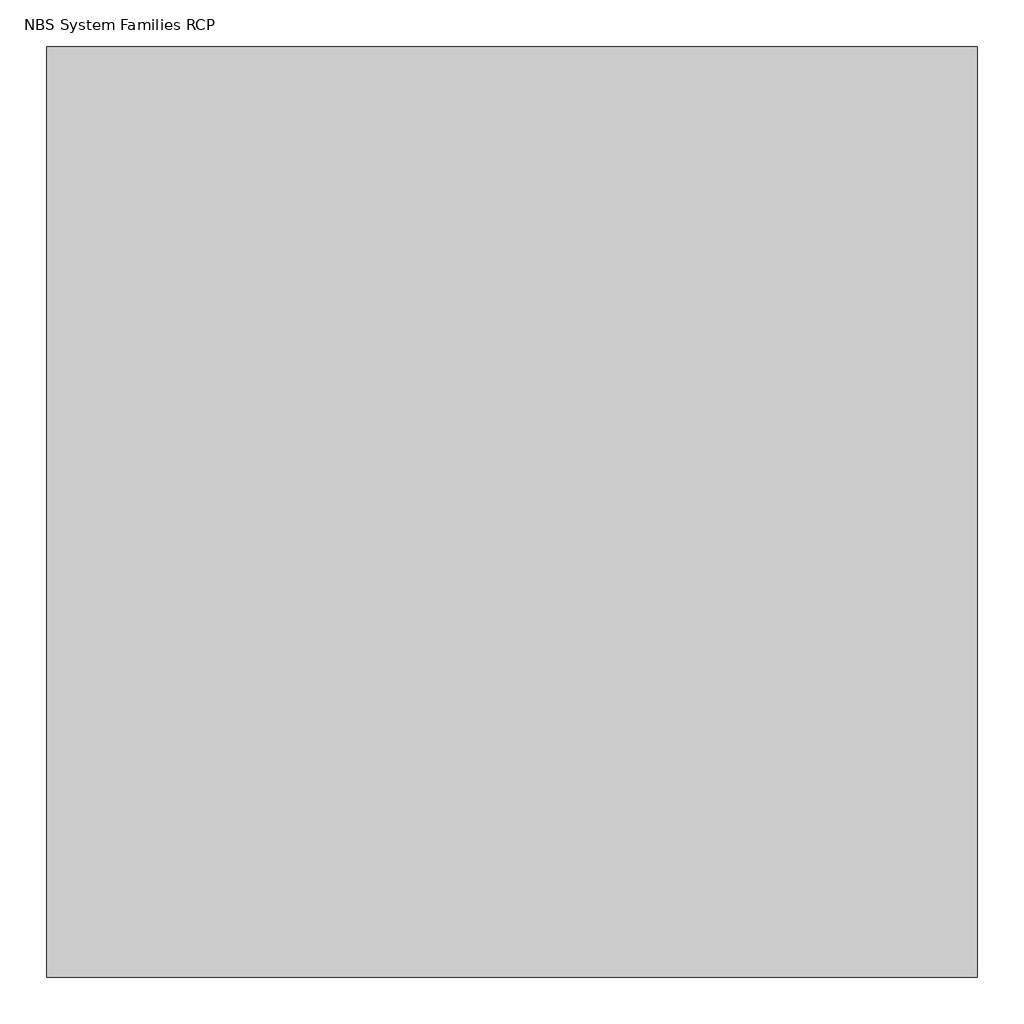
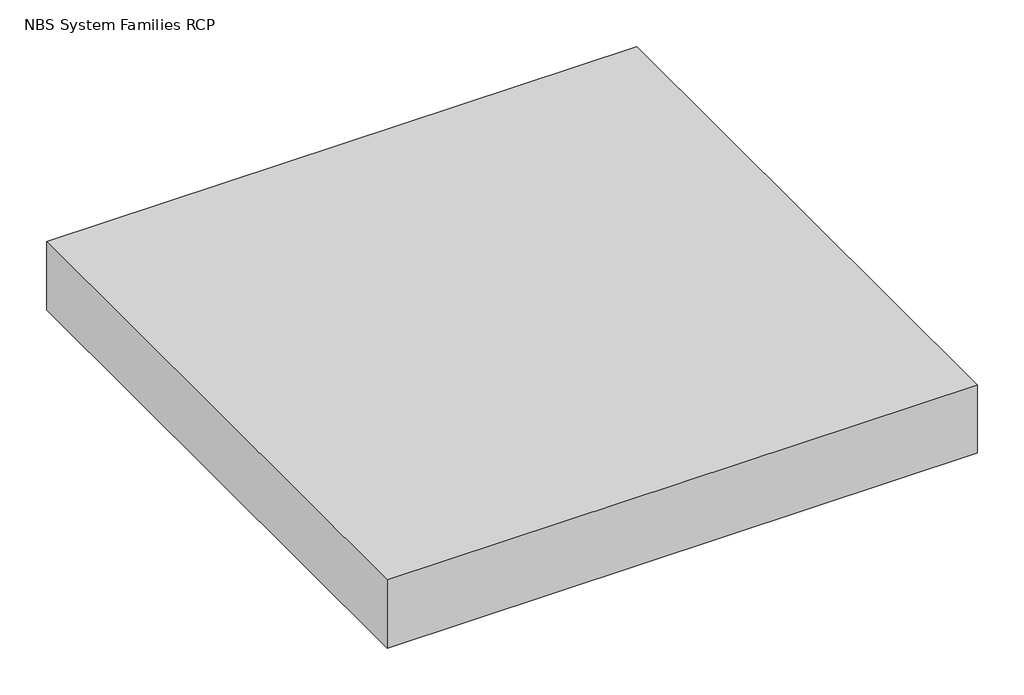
# One storey: 1 proxy.
"""IFC4 building model written with IfcOpenShell, lengths in millimetres."""

import ifcopenshell
import ifcopenshell.guid

model = None  # the IFC model being written
_history = None  # IfcOwnerHistory: only IFC2X3 demands one
_inside = {}  # id of a spatial element -> (the spatial element, [elements in it])
_under = {}  # id of a project, library or spatial element -> (it, [spatial elements below it])
_declared = {}  # id of a project -> (the project, [libraries it declares])
_typed = {}  # id of a type object -> (the type object, [elements of that type])
_made_of = {}  # id of a material, layer set ... -> (it, [elements and type objects made of it])


def new_model(schema):
    """Start an empty IFC model of exactly this schema.

    Asked for "IFC4X3", IfcOpenShell would pick the latest addendum, in which some entities
    have other attributes; the version numbers below select the first issue.
    IFC2X3 requires an IfcOwnerHistory on every rooted entity: one is made here for all.
    """
    global model, _history
    if schema == "IFC4X3":
        model = ifcopenshell.file(schema_version=(4, 3, 0, 0))
    else:
        model = ifcopenshell.file(schema=schema)
    _inside.clear()
    _under.clear()
    _declared.clear()
    _typed.clear()
    _made_of.clear()
    _history = None
    if model.schema == "IFC2X3":
        org = make("IfcOrganization", Name="unknown")
        user = make(
            "IfcPersonAndOrganization",
            ThePerson=make("IfcPerson", FamilyName="unknown"),
            TheOrganization=org,
        )
        app = make(
            "IfcApplication",
            ApplicationDeveloper=org,
            Version="unknown",
            ApplicationFullName="unknown",
            ApplicationIdentifier="unknown",
        )
        _history = make(
            "IfcOwnerHistory",
            OwningUser=user,
            OwningApplication=app,
            ChangeAction="ADDED",
            CreationDate=0,
        )
    return model


def make(cls, **values):
    """One entity of the class cls with the attributes given. An attribute that is None is left unset."""
    return model.create_entity(
        cls, **{name: value for name, value in values.items() if value is not None}
    )


def rooted(cls, **values):
    """An entity with a GlobalId (a new one), such as an element, a storey or a relation."""
    return make(cls, GlobalId=ifcopenshell.guid.new(), OwnerHistory=_history, **values)


def si_unit(unit_type, name, prefix=None):
    """IfcSIUnit, for example si_unit("LENGTHUNIT", "METRE", prefix="MILLI")."""
    return make("IfcSIUnit", UnitType=unit_type, Prefix=prefix, Name=name)


def assignment(units):
    """IfcUnitAssignment: the units of a project."""
    return None if units is None else make("IfcUnitAssignment", Units=units)


def point(xyz):
    """IfcCartesianPoint."""
    return None if xyz is None else make("IfcCartesianPoint", Coordinates=xyz)


def direction(xyz):
    """IfcDirection."""
    return None if xyz is None else make("IfcDirection", DirectionRatios=xyz)


def frame(location, z_axis=None, x_axis=None):
    """IfcAxis2Placement3D, a coordinate frame: its origin and axes. An axis left out is left unset."""
    return make(
        "IfcAxis2Placement3D",
        Location=point(location),
        Axis=direction(z_axis),
        RefDirection=direction(x_axis),
    )


def origin():
    """The frame at (0, 0, 0) with its axes left unset."""
    return frame((0.0, 0.0, 0.0))


def origin_with_axes():
    """The frame at (0, 0, 0) with the z axis (0, 0, 1) and the x axis (1, 0, 0) written out."""
    return frame((0.0, 0.0, 0.0), z_axis=(0.0, 0.0, 1.0), x_axis=(1.0, 0.0, 0.0))


def place(relative_to, where):
    """IfcLocalPlacement: puts the frame where relative to a parent placement (None: the world)."""
    return make(
        "IfcLocalPlacement", PlacementRelTo=relative_to, RelativePlacement=where
    )


def context(
    kind, dimensions, precision=None, world=None, true_north=None, identifier=None
):
    """IfcGeometricRepresentationContext, for example the 3D "Model" context."""
    return make(
        "IfcGeometricRepresentationContext",
        ContextIdentifier=identifier,
        ContextType=kind,
        CoordinateSpaceDimension=dimensions,
        Precision=precision,
        WorldCoordinateSystem=world,
        TrueNorth=true_north,
    )


def project(units=None, contexts=None):
    """IfcProject with its units and contexts."""
    return rooted(
        "IfcProject",
        Name="project",
        RepresentationContexts=contexts,
        UnitsInContext=assignment(units),
    )


def spatial(cls, under=None, at=None, **own):
    """A site, building, storey or space (cls), placed at a placement, below another one or the project."""
    s = rooted(cls, ObjectPlacement=at, **own)
    if under is not None:
        _under.setdefault(under.id(), (under, []))[1].append(s)
    return s


def polyline(points):
    """IfcPolyline through the points."""
    return make("IfcPolyline", Points=[point(p) for p in points])


def outline(outer, holes=None, kind="AREA"):
    """IfcArbitraryClosedProfileDef: a profile drawn as a closed curve; with holes, ...WithVoids."""
    if holes is None:
        return make("IfcArbitraryClosedProfileDef", ProfileType=kind, OuterCurve=outer)
    return make(
        "IfcArbitraryProfileDefWithVoids",
        ProfileType=kind,
        OuterCurve=outer,
        InnerCurves=holes,
    )


def extrude(swept, where, along, depth):
    """IfcExtrudedAreaSolid: the profile swept, set in the frame where, extruded along a direction by depth."""
    return make(
        "IfcExtrudedAreaSolid",
        SweptArea=swept,
        Position=where,
        ExtrudedDirection=direction(along),
        Depth=depth,
    )


def shape(context_of_items, identifier, shape_type, items):
    """IfcShapeRepresentation: the items that make up one representation, for example the "Body"."""
    return make(
        "IfcShapeRepresentation",
        ContextOfItems=context_of_items,
        RepresentationIdentifier=identifier,
        RepresentationType=shape_type,
        Items=items,
    )


def made_of(thing, what):
    """Note that an element or type object is made of a material, layer set ...; save() writes the relation."""
    if what is not None:
        _made_of.setdefault(what.id(), (what, []))[1].append(thing)
    return thing


def element(
    cls,
    number,
    at=None,
    inside=None,
    cuts=None,
    type_object=None,
    material=None,
    context=None,
    identifier="Body",
    shape_type=None,
    held_by="IfcProductDefinitionShape",
    body=None,
    shapes=None,
    **own,
):
    """One element of the class cls, such as IfcWall. Its Tag is "e" and its number.

    at: its placement. inside: the storey or other place that contains it. cuts: it is an
    opening in that element (IfcRelVoidsElement). A single representation is given by context,
    identifier, shape_type and body (its items); several are given by shapes. held_by: the class
    of the entity that holds the representations. save() writes the other relations.
    """
    e = rooted(cls, Tag="e%d" % number, ObjectPlacement=at, **own)
    if body is not None:
        shapes = [shape(context, identifier, shape_type, body)]
    if shapes is not None:
        e.Representation = make(held_by, Representations=shapes)
    if inside is not None:
        _inside.setdefault(inside.id(), (inside, []))[1].append(e)
    if cuts is not None:
        rooted(
            "IfcRelVoidsElement", RelatingBuildingElement=cuts, RelatedOpeningElement=e
        )
    if type_object is not None:
        _typed.setdefault(type_object.id(), (type_object, []))[1].append(e)
    return made_of(e, material)


def aggregate(whole, parts):
    """IfcRelAggregates: a whole, such as a stair, and the parts it consists of."""
    return rooted("IfcRelAggregates", RelatingObject=whole, RelatedObjects=parts)


def save(model, path):
    """Write the relations noted so far, then the file.

    IfcRelAggregates (storeys below a building ...), IfcRelContainedInSpatialStructure (elements
    in a storey), IfcRelDefinesByType, IfcRelAssociatesMaterial and IfcRelDeclares: one each for
    every whole, place, type object, material and project.
    """
    for whole, parts in _under.values():
        aggregate(whole, parts)
    for where, things in _inside.values():
        rooted(
            "IfcRelContainedInSpatialStructure",
            RelatedElements=things,
            RelatingStructure=where,
        )
    for kind, things in _typed.values():
        rooted("IfcRelDefinesByType", RelatedObjects=things, RelatingType=kind)
    for what, things in _made_of.values():
        rooted("IfcRelAssociatesMaterial", RelatedObjects=things, RelatingMaterial=what)
    for by, libraries in _declared.values():
        rooted("IfcRelDeclares", RelatingContext=by, RelatedDefinitions=libraries)
    model.write(path)


model = new_model("IFC4")

# Units and contexts
model_context = context("Model", 3, world=origin())
ifc_project = project(units=[si_unit("LENGTHUNIT", "METRE", prefix="MILLI")], contexts=[model_context])

# Site, building, storey
site = spatial("IfcSite", under=ifc_project)
building = spatial("IfcBuilding", under=site)
storey = spatial("IfcBuildingStorey", under=building, Name="NBS System Families RCP", Elevation=0.0)

# Proxy
placement = place(None, origin())
element("IfcBuildingElementProxy", 1, Name="TATA_Catnic_MetalProfiledSheetRoofCoveringSystem_SSR2_WarmRoof", ObjectType="TATA_Catnic_MetalProfiledSheetRoofCoveringSystem_SSR2_WarmRoof", at=placement, inside=storey, context=model_context, shape_type="SweptSolid", body=[
    extrude(outline(polyline([(2258.592582, 3600.012889), (2258.592582, 6100.012889), (4758.592582, 6100.012889), (4758.592582, 3600.012889), (2258.592582, 3600.012889)])), origin_with_axes(), (0.0, 0.0, 1.0), 305.0),
])

save(model, "model.ifc")
